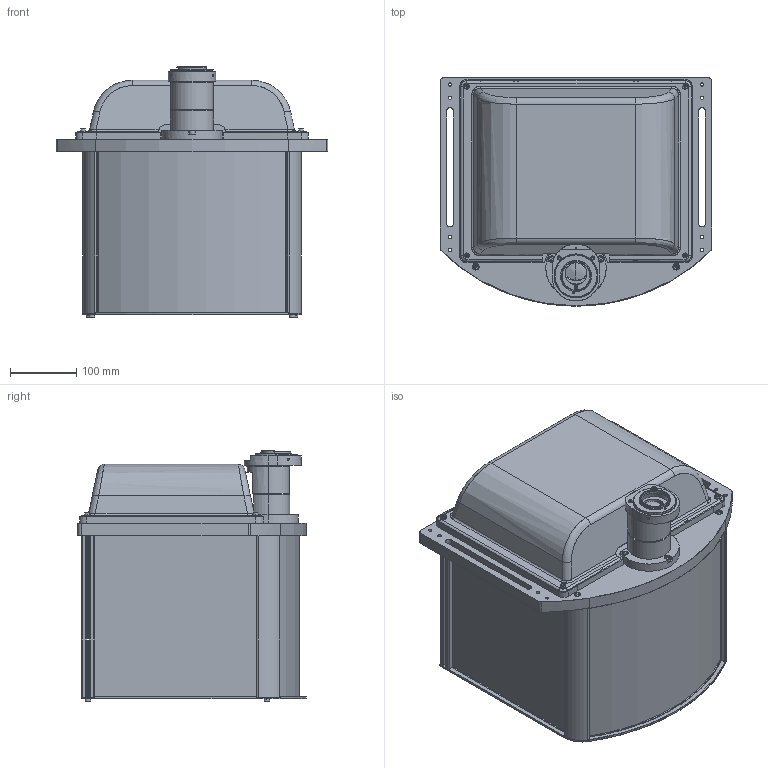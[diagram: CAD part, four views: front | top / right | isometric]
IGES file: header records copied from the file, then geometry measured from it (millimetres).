
Start section: SolidWorks IGES file using analytic representation for surfaces
Global section: file name: \\172.16.20.198\dati\R&D\01 archivio\DPXXXXX-X\DP27533-C_TCCP5MHR192-F.igs; native system: SolidWorks 2021; preprocessor: SolidWorks 2021; author: bertolucci; date: 211115.131546; units: millimetre
Bounding box: 410.34 x 344.11 x 377.93 mm (x, y, z)
Surface area: 878690.4 mm2 (no closed solid volume)
Topology: 0 solids, 0 shells, 514 faces, 8090 edges, 8089 vertices
Faces by surface type: bspline 260, revolution 254
